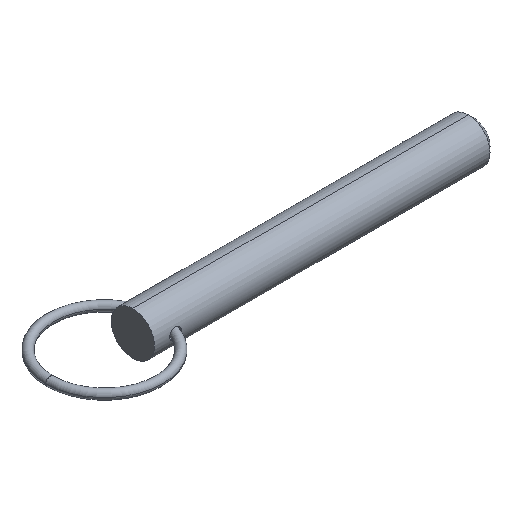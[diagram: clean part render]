
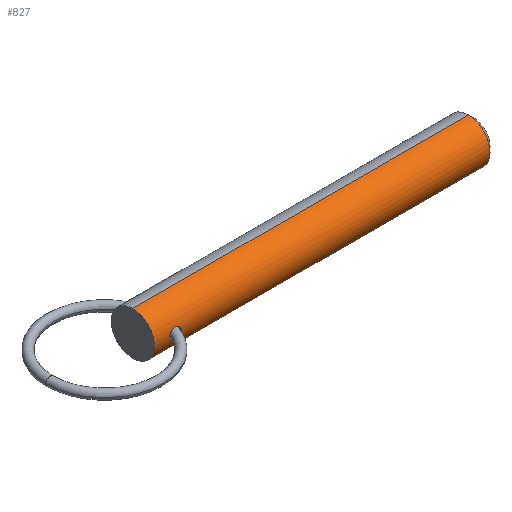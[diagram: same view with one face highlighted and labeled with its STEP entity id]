
A CAD part, isometric view. The second image highlights one B-rep face of the part: STEP entity #827.
In plain terms, the highlighted cylindrical face has radius 6.35 mm (diameter 12.7 mm), a partial arc.
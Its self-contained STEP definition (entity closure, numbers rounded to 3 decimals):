
#5 = DIRECTION ( 'NONE',  ( 0., 0., -1. ) ) ;
#7 = CIRCLE ( 'NONE', #561, 6.35 ) ;
#9 = VECTOR ( 'NONE', #451, 1000. ) ;
#11 = CARTESIAN_POINT ( 'NONE',  ( 5.378, -6.201, -1.366 ) ) ;
#13 = ORIENTED_EDGE ( 'NONE', *, *, #207, .F. ) ;
#14 = CARTESIAN_POINT ( 'NONE',  ( 0., 0., 0. ) ) ;
#24 = DIRECTION ( 'NONE',  ( 1., 0., 0. ) ) ;
#25 = LINE ( 'NONE', #392, #9 ) ;
#28 = FACE_OUTER_BOUND ( 'NONE', #789, .T. ) ;
#40 = LINE ( 'NONE', #315, #528 ) ;
#57 = CARTESIAN_POINT ( 'NONE',  ( 7.336, -6.229, -1.238 ) ) ;
#60 = CARTESIAN_POINT ( 'NONE',  ( 7.693, -6.296, -0.832 ) ) ;
#64 = CARTESIAN_POINT ( 'NONE',  ( 6.002, -6.153, 1.569 ) ) ;
#72 = CARTESIAN_POINT ( 'NONE',  ( 5.191, -6.224, 1.268 ) ) ;
#75 = CARTESIAN_POINT ( 'NONE',  ( 98.413, 0., 0. ) ) ;
#82 = CIRCLE ( 'NONE', #775, 6.35 ) ;
#92 = DIRECTION ( 'NONE',  ( 1., 0., 0. ) ) ;
#133 = CARTESIAN_POINT ( 'NONE',  ( 4.662, -6.309, -0.723 ) ) ;
#145 = CARTESIAN_POINT ( 'NONE',  ( 6.759, -6.163, 1.529 ) ) ;
#147 = CARTESIAN_POINT ( 'NONE',  ( 6.434, -6.147, -1.595 ) ) ;
#158 = CARTESIAN_POINT ( 'NONE',  ( 6.963, -6.18, -1.459 ) ) ;
#173 = EDGE_CURVE ( 'NONE', #324, #174, #836, .T. ) ;
#174 = VERTEX_POINT ( 'NONE', #576 ) ;
#175 = CARTESIAN_POINT ( 'NONE',  ( 7.92, -6.35, 0. ) ) ;
#194 = CARTESIAN_POINT ( 'NONE',  ( 4.452, -6.35, 0.219 ) ) ;
#196 = CARTESIAN_POINT ( 'NONE',  ( 6.655, -6.155, -1.565 ) ) ;
#203 = CARTESIAN_POINT ( 'NONE',  ( 7.338, -6.229, 1.237 ) ) ;
#205 = CARTESIAN_POINT ( 'NONE',  ( 7.063, -6.191, -1.413 ) ) ;
#206 = CARTESIAN_POINT ( 'NONE',  ( 7.576, -6.27, 1.017 ) ) ;
#207 = EDGE_CURVE ( 'NONE', #254, #466, #82, .T. ) ;
#210 = CARTESIAN_POINT ( 'NONE',  ( 6.965, -6.181, 1.458 ) ) ;
#254 = VERTEX_POINT ( 'NONE', #773 ) ;
#276 = CARTESIAN_POINT ( 'NONE',  ( 4.722, -6.298, -0.813 ) ) ;
#278 = CARTESIAN_POINT ( 'NONE',  ( 7.92, -6.35, 0. ) ) ;
#287 = CARTESIAN_POINT ( 'NONE',  ( 7.92, -6.35, 0.218 ) ) ;
#291 = EDGE_LOOP ( 'NONE', ( #374, #781 ) ) ;
#298 = CARTESIAN_POINT ( 'NONE',  ( 7.496, -6.256, -1.091 ) ) ;
#315 = CARTESIAN_POINT ( 'NONE',  ( 0., 0., -6.35 ) ) ;
#317 = CARTESIAN_POINT ( 'NONE',  ( 7.833, -6.328, -0.536 ) ) ;
#324 = VERTEX_POINT ( 'NONE', #447 ) ;
#332 = CARTESIAN_POINT ( 'NONE',  ( 4.452, -6.35, 0. ) ) ;
#340 = CARTESIAN_POINT ( 'NONE',  ( 7.92, -6.35, -0.109 ) ) ;
#342 = EDGE_CURVE ( 'NONE', #727, #254, #25, .T. ) ;
#345 = CARTESIAN_POINT ( 'NONE',  ( 5.192, -6.225, -1.257 ) ) ;
#350 = CARTESIAN_POINT ( 'NONE',  ( 6.111, -6.15, 1.582 ) ) ;
#355 = CARTESIAN_POINT ( 'NONE',  ( 7.746, -6.308, -0.737 ) ) ;
#362 = CARTESIAN_POINT ( 'NONE',  ( 7.704, -6.298, 0.835 ) ) ;
#365 = CARTESIAN_POINT ( 'NONE',  ( 4.856, -6.274, 0.989 ) ) ;
#374 = ORIENTED_EDGE ( 'NONE', *, *, #173, .T. ) ;
#379 = CARTESIAN_POINT ( 'NONE',  ( 0., 0., 6.35 ) ) ;
#385 = FACE_BOUND ( 'NONE', #291, .T. ) ;
#392 = CARTESIAN_POINT ( 'NONE',  ( 0., 0., 6.35 ) ) ;
#398 = CARTESIAN_POINT ( 'NONE',  ( 4.51, -6.338, 0.435 ) ) ;
#422 = ORIENTED_EDGE ( 'NONE', *, *, #689, .T. ) ;
#425 = CARTESIAN_POINT ( 'NONE',  ( 4.466, -6.347, -0.219 ) ) ;
#430 = DIRECTION ( 'NONE',  ( 1., 0., 0. ) ) ;
#436 = CARTESIAN_POINT ( 'NONE',  ( 7.249, -6.215, 1.303 ) ) ;
#438 = CARTESIAN_POINT ( 'NONE',  ( 7.063, -6.191, 1.413 ) ) ;
#447 = CARTESIAN_POINT ( 'NONE',  ( 4.452, -6.35, 0. ) ) ;
#450 = CARTESIAN_POINT ( 'NONE',  ( 5.477, -6.191, -1.414 ) ) ;
#451 = DIRECTION ( 'NONE',  ( 1., 0., 0. ) ) ;
#460 = CARTESIAN_POINT ( 'NONE',  ( 0., 0., 0. ) ) ;
#465 = EDGE_CURVE ( 'NONE', #174, #324, #871, .T. ) ;
#466 = VERTEX_POINT ( 'NONE', #712 ) ;
#489 = CARTESIAN_POINT ( 'NONE',  ( 5.68, -6.172, -1.492 ) ) ;
#492 = CARTESIAN_POINT ( 'NONE',  ( 6.329, -6.148, 1.59 ) ) ;
#497 = CARTESIAN_POINT ( 'NONE',  ( 4.452, -6.35, 0. ) ) ;
#528 = VECTOR ( 'NONE', #92, 1000. ) ;
#542 = DIRECTION ( 'NONE',  ( 0., 0., -1. ) ) ;
#558 = CARTESIAN_POINT ( 'NONE',  ( 5.784, -6.165, -1.523 ) ) ;
#561 = AXIS2_PLACEMENT_3D ( 'NONE', #14, #582, #848 ) ;
#563 = CARTESIAN_POINT ( 'NONE',  ( 4.52, -6.336, -0.428 ) ) ;
#564 = CARTESIAN_POINT ( 'NONE',  ( 7.875, -6.338, 0.437 ) ) ;
#576 = CARTESIAN_POINT ( 'NONE',  ( 7.92, -6.35, 0. ) ) ;
#582 = DIRECTION ( 'NONE',  ( 1., 0., 0. ) ) ;
#600 = ORIENTED_EDGE ( 'NONE', *, *, #342, .F. ) ;
#625 = CARTESIAN_POINT ( 'NONE',  ( 4.86, -6.274, -0.98 ) ) ;
#627 = EDGE_CURVE ( 'NONE', #727, #667, #7, .T. ) ;
#630 = CARTESIAN_POINT ( 'NONE',  ( 6.652, -6.157, 1.554 ) ) ;
#639 = CARTESIAN_POINT ( 'NONE',  ( 5.789, -6.164, 1.525 ) ) ;
#644 = CARTESIAN_POINT ( 'NONE',  ( 7.25, -6.215, -1.302 ) ) ;
#654 = CYLINDRICAL_SURFACE ( 'NONE', #766, 6.35 ) ;
#664 = CARTESIAN_POINT ( 'NONE',  ( 0., 0., -6.35 ) ) ;
#667 = VERTEX_POINT ( 'NONE', #664 ) ;
#689 = EDGE_CURVE ( 'NONE', #667, #466, #40, .T. ) ;
#691 = CARTESIAN_POINT ( 'NONE',  ( 4.452, -6.35, -0.109 ) ) ;
#694 = CARTESIAN_POINT ( 'NONE',  ( 4.56, -6.329, -0.53 ) ) ;
#702 = CARTESIAN_POINT ( 'NONE',  ( 6.437, -6.149, 1.585 ) ) ;
#712 = CARTESIAN_POINT ( 'NONE',  ( 98.413, 0., -6.35 ) ) ;
#727 = VERTEX_POINT ( 'NONE', #379 ) ;
#735 = CARTESIAN_POINT ( 'NONE',  ( 7.909, -6.347, -0.22 ) ) ;
#737 = ORIENTED_EDGE ( 'NONE', *, *, #627, .T. ) ;
#751 = CARTESIAN_POINT ( 'NONE',  ( 7.865, -6.336, -0.432 ) ) ;
#757 = CARTESIAN_POINT ( 'NONE',  ( 7.568, -6.27, -1.008 ) ) ;
#761 = CARTESIAN_POINT ( 'NONE',  ( 5.381, -6.199, 1.378 ) ) ;
#766 = AXIS2_PLACEMENT_3D ( 'NONE', #460, #24, #542 ) ;
#769 = CARTESIAN_POINT ( 'NONE',  ( 5.685, -6.172, 1.494 ) ) ;
#773 = CARTESIAN_POINT ( 'NONE',  ( 98.413, 0., 6.35 ) ) ;
#775 = AXIS2_PLACEMENT_3D ( 'NONE', #75, #430, #5 ) ;
#780 = CARTESIAN_POINT ( 'NONE',  ( 5.998, -6.153, -1.568 ) ) ;
#781 = ORIENTED_EDGE ( 'NONE', *, *, #465, .T. ) ;
#789 = EDGE_LOOP ( 'NONE', ( #600, #737, #422, #13 ) ) ;
#813 = CARTESIAN_POINT ( 'NONE',  ( 4.713, -6.3, 0.82 ) ) ;
#825 = CARTESIAN_POINT ( 'NONE',  ( 4.938, -6.262, -1.058 ) ) ;
#827 = ADVANCED_FACE ( 'NONE', ( #28, #385 ), #654, .T. ) ;
#836 = B_SPLINE_CURVE_WITH_KNOTS ( 'NONE', 3,
 ( #332, #194, #398, #813, #365, #72, #761, #769, #639, #64, #350, #492, #702, #630, #145, #210, #438, #436, #203, #206, #362, #564, #287, #278 ),
 .UNSPECIFIED., .F., .F.,
 ( 4, 2, 2, 2, 2, 2, 2, 2, 2, 2, 2, 4 ),
 ( 0.001, 0.002, 0.002, 0.003, 0.003, 0.004, 0.004, 0.004, 0.005, 0.005, 0.006, 0.006 ),
 .UNSPECIFIED. ) ;
#848 = DIRECTION ( 'NONE',  ( 0., 0., -1. ) ) ;
#871 = B_SPLINE_CURVE_WITH_KNOTS ( 'NONE', 3,
 ( #175, #340, #735, #751, #317, #355, #60, #757, #298, #57, #644, #205, #158, #196, #147, #892, #780, #558, #489, #450, #11, #345, #895, #825, #625, #276, #133, #694, #563, #425, #691, #497 ),
 .UNSPECIFIED., .F., .F.,
 ( 4, 2, 2, 2, 2, 2, 2, 2, 2, 2, 2, 2, 2, 2, 2, 4 ),
 ( 0.006, 0.007, 0.007, 0.007, 0.008, 0.008, 0.008, 0.009, 0.009, 0.01, 0.01, 0.01, 0.011, 0.011, 0.011, 0.012 ),
 .UNSPECIFIED. ) ;
#892 = CARTESIAN_POINT ( 'NONE',  ( 6.107, -6.15, -1.582 ) ) ;
#895 = CARTESIAN_POINT ( 'NONE',  ( 5.104, -6.237, -1.196 ) ) ;
